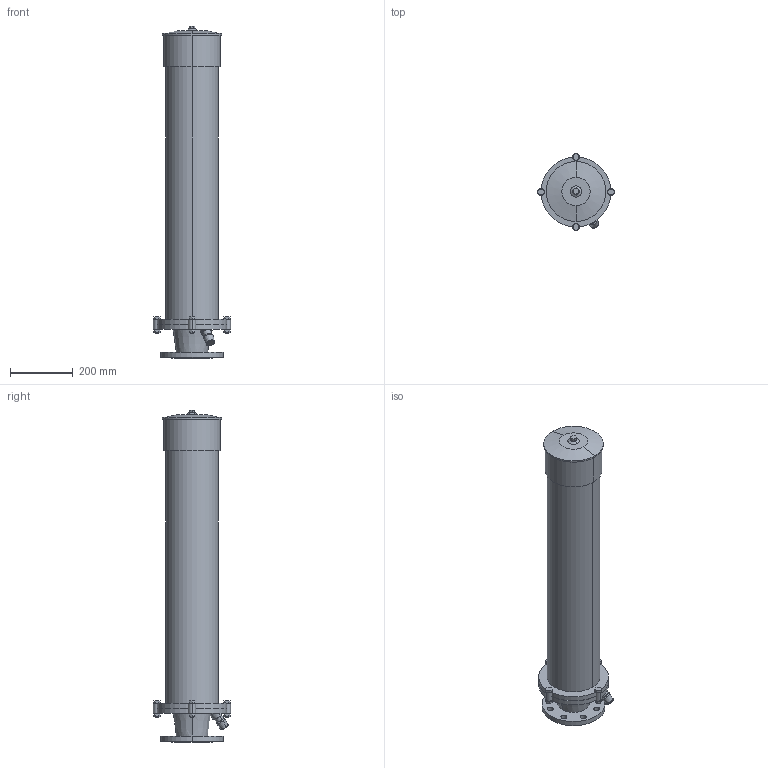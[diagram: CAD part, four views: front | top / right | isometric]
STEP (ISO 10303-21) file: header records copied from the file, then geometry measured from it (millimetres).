
FILE_DESCRIPTION(('STEP AP214'),'1');
FILE_NAME('S:/EK/USER/CAT6/3DHomepage/9822/9822-PN16-DN80-1055.STP','2012-04-26T08:08:39',(' '),(' '),'Spatial InterOp 3D',' ',' ');
FILE_SCHEMA(('automotive_design'));
Length unit declared in the file: millimetre
Products named in the file (37): 3D-Objekt
Bounding box: 245 x 245 x 1055 mm (x, y, z)
Volume: 23111741.4 mm3; surface area: 1053808.4 mm2
Topology: 37 solids, 37 shells, 204 faces, 392 edges, 260 vertices
Faces by surface type: plane 126, cylinder 62, cone 12, torus 4
Entity records: 7729 total; most frequent: DIRECTION 1030, CARTESIAN_POINT 893, ORIENTED_EDGE 784, AXIS2_PLACEMENT_3D 397, EDGE_CURVE 392, VERTEX_POINT 260, STYLED_ITEM 241, PRESENTATION_STYLE_ASSIGNMENT 241
